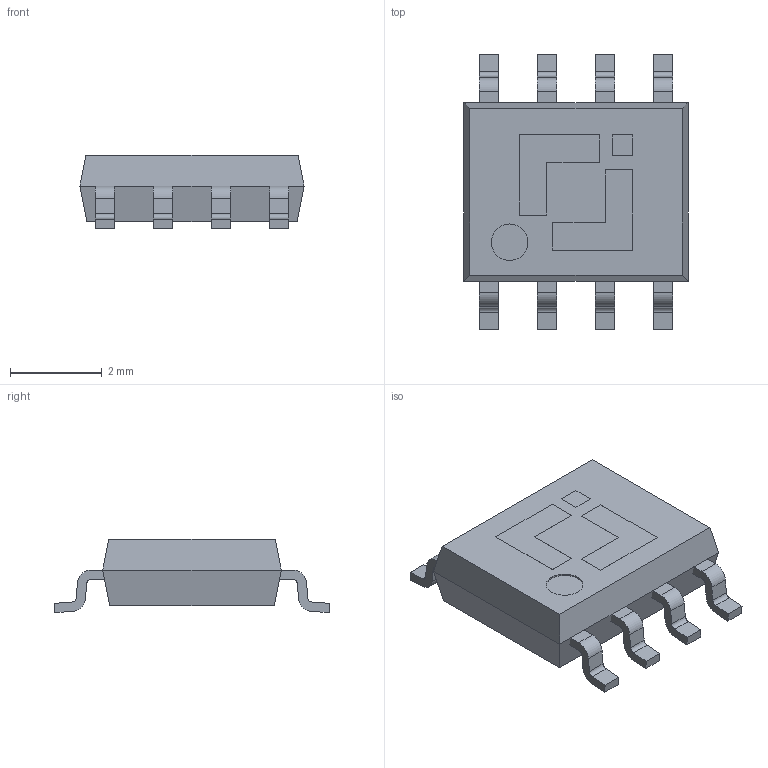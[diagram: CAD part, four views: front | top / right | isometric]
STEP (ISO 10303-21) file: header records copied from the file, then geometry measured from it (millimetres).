
FILE_DESCRIPTION(('HOOPS Exchange Step'),'2;1');
FILE_NAME('C:\Users\JSCJ\AppData\Local\Packages\Shapr3D.Shapr3D_dvv5p1vgwv6mp\TempState\export\temp_export','2025-12-04T11:13:38+08:00',('JSCJ'),('Shapr3D Limited'),'HOOPS Exchange 2025.7','Shapr3D','Authorized');
FILE_SCHEMA( ('AP242_MANAGED_MODEL_BASED_3D_ENGINEERING_MIM_LF {1 0 10303 442 1 1 4}') );
Length unit declared in the file: millimetre
Products named in the file (2): 直线图案 01; root
Assembly tree (1 placements, depth 2):
  root
    直线图案 01
Bounding box: 4.9 x 6.03 x 1.6 mm (x, y, z)
Volume: 27 mm3; surface area: 76.8 mm2
Topology: 9 solids, 9 shells, 147 faces, 365 edges, 242 vertices
Faces by surface type: plane 112, cylinder 35
Full cylindrical faces by diameter (mm): 0.8 x1, 1 x2
Entity records: 4416 total; most frequent: CARTESIAN_POINT 758, DIRECTION 737, ORIENTED_EDGE 730, EDGE_CURVE 365, VECTOR 295, LINE 295, VERTEX_POINT 242, AXIS2_PLACEMENT_3D 221
